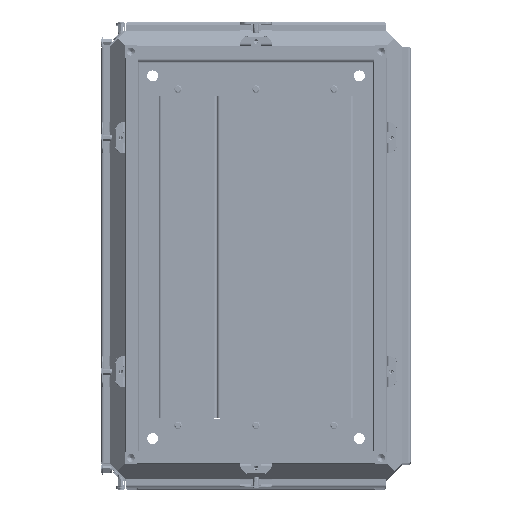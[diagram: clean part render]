
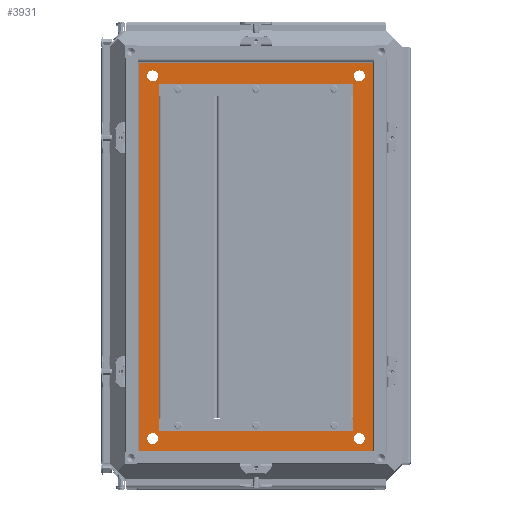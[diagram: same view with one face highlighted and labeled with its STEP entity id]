
A CAD part, top view. The second image highlights one B-rep face of the part: STEP entity #3931.
In plain terms, the highlighted planar face has unit normal (0, 0, 1).
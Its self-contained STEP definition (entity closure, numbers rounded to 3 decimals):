
#3931=ADVANCED_FACE('',(#15347,#15349,#15351,#15353,#15355,#15357),#15359,.F.);
#15347=FACE_BOUND('',#15348,.T.);
#15348=EDGE_LOOP('',(#101541,#101542,#101543,#101544));
#15349=FACE_BOUND('',#15350,.T.);
#15350=EDGE_LOOP('',(#101545,#101546,#101547,#101548));
#15351=FACE_BOUND('',#15352,.T.);
#15352=EDGE_LOOP('',(#101549));
#15353=FACE_BOUND('',#15354,.T.);
#15354=EDGE_LOOP('',(#101550));
#15355=FACE_BOUND('',#15356,.T.);
#15356=EDGE_LOOP('',(#101551));
#15357=FACE_BOUND('',#15358,.T.);
#15358=EDGE_LOOP('',(#101552));
#15359=PLANE('',#15360);
#15360=AXIS2_PLACEMENT_3D('',#15361,#15362,#15363);
#15361=CARTESIAN_POINT('',(0.,0.,-47.5));
#15362=DIRECTION('',(0.,0.,-1.));
#15363=DIRECTION('',(0.,1.,0.));
#101541=ORIENTED_EDGE('',*,*,#153819,.F.);
#101542=ORIENTED_EDGE('',*,*,#153820,.F.);
#101543=ORIENTED_EDGE('',*,*,#153821,.T.);
#101544=ORIENTED_EDGE('',*,*,#153822,.T.);
#101545=ORIENTED_EDGE('',*,*,#153823,.T.);
#101546=ORIENTED_EDGE('',*,*,#153824,.F.);
#101547=ORIENTED_EDGE('',*,*,#153825,.F.);
#101548=ORIENTED_EDGE('',*,*,#153826,.F.);
#101549=ORIENTED_EDGE('',*,*,#153827,.T.);
#101550=ORIENTED_EDGE('',*,*,#153828,.F.);
#101551=ORIENTED_EDGE('',*,*,#153829,.F.);
#101552=ORIENTED_EDGE('',*,*,#153830,.T.);
#153819=EDGE_CURVE('',#180842,#180843,#180844,.F.);
#153820=EDGE_CURVE('',#180845,#180842,#180846,.F.);
#153821=EDGE_CURVE('',#180845,#180847,#180848,.F.);
#153822=EDGE_CURVE('',#180847,#180843,#180849,.F.);
#153823=EDGE_CURVE('',#180850,#180851,#180852,.F.);
#153824=EDGE_CURVE('',#180853,#180851,#180854,.F.);
#153825=EDGE_CURVE('',#180855,#180853,#180856,.F.);
#153826=EDGE_CURVE('',#180850,#180855,#180857,.F.);
#153827=EDGE_CURVE('',#180858,#180858,#180859,.T.);
#153828=EDGE_CURVE('',#180860,#180860,#180861,.T.);
#153829=EDGE_CURVE('',#180862,#180862,#180863,.T.);
#153830=EDGE_CURVE('',#180864,#180864,#180865,.T.);
#180842=VERTEX_POINT('',#227983);
#180843=VERTEX_POINT('',#227984);
#180844=LINE('',#227985,#227986);
#180845=VERTEX_POINT('',#227988);
#180846=LINE('',#227989,#227990);
#180847=VERTEX_POINT('',#227992);
#180848=LINE('',#227993,#227994);
#180849=LINE('',#227996,#227997);
#180850=VERTEX_POINT('',#227999);
#180851=VERTEX_POINT('',#228000);
#180852=LINE('',#228001,#228002);
#180853=VERTEX_POINT('',#228004);
#180854=LINE('',#228005,#228006);
#180855=VERTEX_POINT('',#228008);
#180856=LINE('',#228009,#228010);
#180857=LINE('',#228012,#228013);
#180858=VERTEX_POINT('',#228015);
#180859=CIRCLE('',#228016,7.);
#180860=VERTEX_POINT('',#228020);
#180861=CIRCLE('',#228021,7.);
#180862=VERTEX_POINT('',#228025);
#180863=CIRCLE('',#228026,7.);
#180864=VERTEX_POINT('',#228030);
#180865=CIRCLE('',#228031,7.);
#227983=CARTESIAN_POINT('',(-1.6,1.6,-47.5));
#227984=CARTESIAN_POINT('',(-300.4,1.6,-47.5));
#227985=CARTESIAN_POINT('',(-300.4,1.6,-47.5));
#227986=VECTOR('',#227987,1.);
#227987=DIRECTION('',(1.,0.,0.));
#227988=CARTESIAN_POINT('',(-1.6,500.4,-47.5));
#227989=CARTESIAN_POINT('',(-1.6,1.6,-47.5));
#227990=VECTOR('',#227991,1.);
#227991=DIRECTION('',(0.,1.,0.));
#227992=CARTESIAN_POINT('',(-300.4,500.4,-47.5));
#227993=CARTESIAN_POINT('',(-300.4,500.4,-47.5));
#227994=VECTOR('',#227995,1.);
#227995=DIRECTION('',(1.,0.,0.));
#227996=CARTESIAN_POINT('',(-300.4,1.6,-47.5));
#227997=VECTOR('',#227998,1.);
#227998=DIRECTION('',(0.,1.,0.));
#227999=CARTESIAN_POINT('',(-39.4,39.4,-47.5));
#228000=CARTESIAN_POINT('',(-262.6,39.4,-47.5));
#228001=CARTESIAN_POINT('',(-262.6,39.4,-47.5));
#228002=VECTOR('',#228003,1.);
#228003=DIRECTION('',(1.,0.,0.));
#228004=CARTESIAN_POINT('',(-262.6,462.6,-47.5));
#228005=CARTESIAN_POINT('',(-262.6,39.4,-47.5));
#228006=VECTOR('',#228007,1.);
#228007=DIRECTION('',(0.,1.,0.));
#228008=CARTESIAN_POINT('',(-39.4,462.6,-47.5));
#228009=CARTESIAN_POINT('',(-262.6,462.6,-47.5));
#228010=VECTOR('',#228011,1.);
#228011=DIRECTION('',(1.,0.,0.));
#228012=CARTESIAN_POINT('',(-39.4,462.6,-47.5));
#228013=VECTOR('',#228014,1.);
#228014=DIRECTION('',(0.,-1.,0.));
#228015=CARTESIAN_POINT('',(-18.5,25.5,-47.5));
#228016=AXIS2_PLACEMENT_3D('',#228017,#228018,#228019);
#228017=CARTESIAN_POINT('',(-18.5,18.5,-47.5));
#228018=DIRECTION('',(0.,0.,-1.));
#228019=DIRECTION('',(0.,1.,0.));
#228020=CARTESIAN_POINT('',(-283.5,25.5,-47.5));
#228021=AXIS2_PLACEMENT_3D('',#228022,#228023,#228024);
#228022=CARTESIAN_POINT('',(-283.5,18.5,-47.5));
#228023=DIRECTION('',(0.,0.,1.));
#228024=DIRECTION('',(0.,1.,0.));
#228025=CARTESIAN_POINT('',(-18.5,476.5,-47.5));
#228026=AXIS2_PLACEMENT_3D('',#228027,#228028,#228029);
#228027=CARTESIAN_POINT('',(-18.5,483.5,-47.5));
#228028=DIRECTION('',(0.,0.,1.));
#228029=DIRECTION('',(0.,-1.,0.));
#228030=CARTESIAN_POINT('',(-283.5,476.5,-47.5));
#228031=AXIS2_PLACEMENT_3D('',#228032,#228033,#228034);
#228032=CARTESIAN_POINT('',(-283.5,483.5,-47.5));
#228033=DIRECTION('',(0.,0.,-1.));
#228034=DIRECTION('',(0.,-1.,0.));
